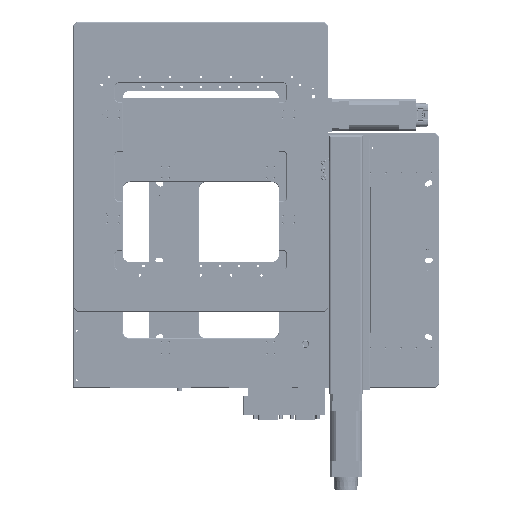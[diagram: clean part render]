
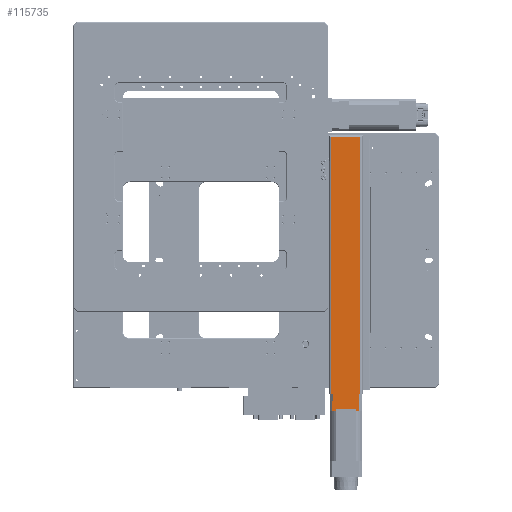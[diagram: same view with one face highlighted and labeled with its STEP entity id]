
A CAD part, top view. The second image highlights one B-rep face of the part: STEP entity #115735.
In plain terms, the highlighted planar face has unit normal (0, 0, 1).
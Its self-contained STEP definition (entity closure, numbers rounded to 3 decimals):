
#6346=PLANE($,#124810);
#13252=FACE_OUTER_BOUND($,#21347,.T.);
#21347=EDGE_LOOP($,(#90698,#90699,#90700,#90701,#90702,#90703,#90704,#90705,
#90706,#90707,#90708,#90709,#90710,#90711,#90712,#90713));
#27252=LINE($,#168132,#36490);
#27253=LINE($,#168136,#36491);
#27256=LINE($,#168151,#36494);
#29875=LINE($,#199477,#39113);
#29879=LINE($,#199489,#39117);
#29924=LINE($,#199726,#39162);
#29925=LINE($,#199727,#39163);
#29929=LINE($,#199733,#39167);
#29930=LINE($,#199736,#39168);
#29935=LINE($,#199751,#39173);
#29936=LINE($,#199753,#39174);
#29943=LINE($,#199766,#39181);
#30031=LINE($,#200124,#39269);
#30035=LINE($,#200131,#39273);
#30044=LINE($,#200148,#39282);
#30061=LINE($,#200316,#39299);
#36490=VECTOR($,#137035,2.);
#36491=VECTOR($,#137040,337.);
#36494=VECTOR($,#137053,337.);
#39113=VECTOR($,#145440,0.755);
#39117=VECTOR($,#145450,0.755);
#39162=VECTOR($,#145611,25.239);
#39163=VECTOR($,#145612,2.25);
#39167=VECTOR($,#145616,2.25);
#39168=VECTOR($,#145619,5.136);
#39173=VECTOR($,#145634,5.136);
#39174=VECTOR($,#145637,12.8);
#39181=VECTOR($,#145652,12.8);
#39269=VECTOR($,#145960,9.);
#39273=VECTOR($,#145966,9.);
#39282=VECTOR($,#145985,2.);
#39299=VECTOR($,#146156,38.);
#49971=VERTEX_POINT($,#168129);
#49972=VERTEX_POINT($,#168131);
#49973=VERTEX_POINT($,#168135);
#49979=VERTEX_POINT($,#168148);
#49980=VERTEX_POINT($,#168150);
#53266=VERTEX_POINT($,#199473);
#53268=VERTEX_POINT($,#199476);
#53271=VERTEX_POINT($,#199483);
#53273=VERTEX_POINT($,#199487);
#53327=VERTEX_POINT($,#199683);
#53341=VERTEX_POINT($,#199720);
#53342=VERTEX_POINT($,#199724);
#53343=VERTEX_POINT($,#199725);
#53346=VERTEX_POINT($,#199735);
#53351=VERTEX_POINT($,#199749);
#53451=VERTEX_POINT($,#200129);
#61249=EDGE_CURVE($,#49972,#49971,#27252,.T.);
#61251=EDGE_CURVE($,#49972,#49973,#27253,.T.);
#61258=EDGE_CURVE($,#49980,#49979,#27256,.T.);
#66129=EDGE_CURVE($,#53268,#53266,#29875,.T.);
#66135=EDGE_CURVE($,#53271,#53273,#29879,.T.);
#66222=EDGE_CURVE($,#53342,#53343,#29924,.T.);
#66223=EDGE_CURVE($,#53341,#53342,#29925,.T.);
#66227=EDGE_CURVE($,#53343,#53327,#29929,.T.);
#66228=EDGE_CURVE($,#53341,#53346,#29930,.T.);
#66236=EDGE_CURVE($,#53351,#53327,#29935,.T.);
#66237=EDGE_CURVE($,#53268,#53351,#29936,.T.);
#66245=EDGE_CURVE($,#53273,#53346,#29943,.T.);
#66388=EDGE_CURVE($,#53271,#49971,#30031,.T.);
#66392=EDGE_CURVE($,#53451,#53266,#30035,.T.);
#66401=EDGE_CURVE($,#53451,#49980,#30044,.T.);
#66464=EDGE_CURVE($,#49973,#49979,#30061,.T.);
#90698=ORIENTED_EDGE($,*,*,#66388,.F.);
#90699=ORIENTED_EDGE($,*,*,#66135,.T.);
#90700=ORIENTED_EDGE($,*,*,#66245,.T.);
#90701=ORIENTED_EDGE($,*,*,#66228,.F.);
#90702=ORIENTED_EDGE($,*,*,#66223,.T.);
#90703=ORIENTED_EDGE($,*,*,#66222,.T.);
#90704=ORIENTED_EDGE($,*,*,#66227,.T.);
#90705=ORIENTED_EDGE($,*,*,#66236,.F.);
#90706=ORIENTED_EDGE($,*,*,#66237,.F.);
#90707=ORIENTED_EDGE($,*,*,#66129,.T.);
#90708=ORIENTED_EDGE($,*,*,#66392,.F.);
#90709=ORIENTED_EDGE($,*,*,#66401,.T.);
#90710=ORIENTED_EDGE($,*,*,#61258,.T.);
#90711=ORIENTED_EDGE($,*,*,#66464,.F.);
#90712=ORIENTED_EDGE($,*,*,#61251,.F.);
#90713=ORIENTED_EDGE($,*,*,#61249,.T.);
#115735=ADVANCED_FACE($,(#13252),#6346,.T.);
#124810=AXIS2_PLACEMENT_3D($,#201328,#147156,#147157);
#137035=DIRECTION($,(1.,0.,0.));
#137040=DIRECTION($,(0.,1.,0.));
#137053=DIRECTION($,(0.,1.,0.));
#145440=DIRECTION($,(-1.,0.,0.));
#145450=DIRECTION($,(-1.,0.,0.));
#145611=DIRECTION($,(1.,0.,0.));
#145612=DIRECTION($,(0.,1.,0.));
#145616=DIRECTION($,(0.,-1.,0.));
#145619=DIRECTION($,(-1.,0.,0.));
#145634=DIRECTION($,(-1.,0.,0.));
#145637=DIRECTION($,(0.,-1.,0.));
#145652=DIRECTION($,(0.,-1.,0.));
#145960=DIRECTION($,(0.,1.,0.));
#145966=DIRECTION($,(0.,-1.,0.));
#145985=DIRECTION($,(1.,0.,0.));
#146156=DIRECTION($,(1.,0.,0.));
#147156=DIRECTION('center_axis',(0.,0.,
1.));
#147157=DIRECTION('ref_axis',(1.,0.,0.));
#168129=CARTESIAN_POINT('',(341.,-748.368,42.));
#168131=CARTESIAN_POINT('',(339.,-748.368,42.));
#168132=CARTESIAN_POINT($,(336.,-748.368,42.));
#168135=CARTESIAN_POINT('',(339.,-411.368,42.));
#168136=CARTESIAN_POINT($,(339.,-748.368,42.));
#168148=CARTESIAN_POINT('',(377.,-411.368,42.));
#168150=CARTESIAN_POINT('',(377.,-748.368,42.));
#168151=CARTESIAN_POINT($,(377.,-578.368,42.));
#199473=CARTESIAN_POINT('',(375.,-757.368,42.));
#199476=CARTESIAN_POINT('',(375.755,-757.368,42.));
#199477=CARTESIAN_POINT($,(375.755,-757.368,42.));
#199483=CARTESIAN_POINT('',(341.,-757.368,42.));
#199487=CARTESIAN_POINT('',(340.245,-757.368,42.));
#199489=CARTESIAN_POINT($,(375.755,-757.368,42.));
#199683=CARTESIAN_POINT('',(370.619,-770.168,42.));
#199720=CARTESIAN_POINT('',(345.381,-770.168,42.));
#199724=CARTESIAN_POINT('',(345.381,-767.918,42.));
#199725=CARTESIAN_POINT('',(370.619,-767.918,42.));
#199726=CARTESIAN_POINT($,(358.,-767.918,42.));
#199727=CARTESIAN_POINT($,(345.381,-770.168,42.));
#199733=CARTESIAN_POINT($,(370.619,-770.168,42.));
#199735=CARTESIAN_POINT('',(340.245,-770.168,42.));
#199736=CARTESIAN_POINT($,(375.755,-770.168,42.));
#199749=CARTESIAN_POINT('',(375.755,-770.168,42.));
#199751=CARTESIAN_POINT($,(375.755,-770.168,42.));
#199753=CARTESIAN_POINT($,(375.755,-757.368,42.));
#199766=CARTESIAN_POINT($,(340.245,-757.368,42.));
#200124=CARTESIAN_POINT($,(341.,-748.368,42.));
#200129=CARTESIAN_POINT('',(375.,-748.368,42.));
#200131=CARTESIAN_POINT($,(375.,-748.368,42.));
#200148=CARTESIAN_POINT($,(336.,-748.368,42.));
#200316=CARTESIAN_POINT($,(369.,-411.368,42.));
#201328=CARTESIAN_POINT('Origin',(336.,-748.368,42.));
